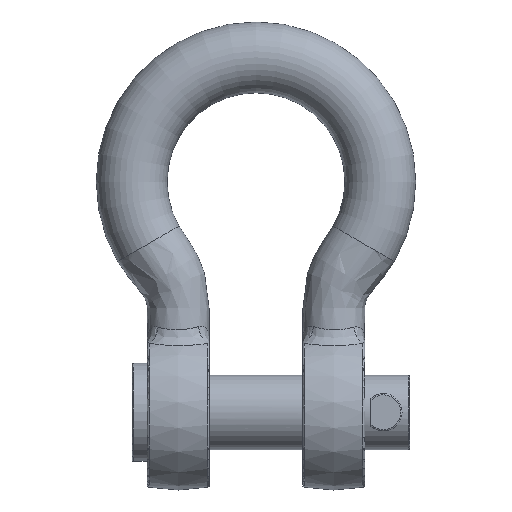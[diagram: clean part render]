
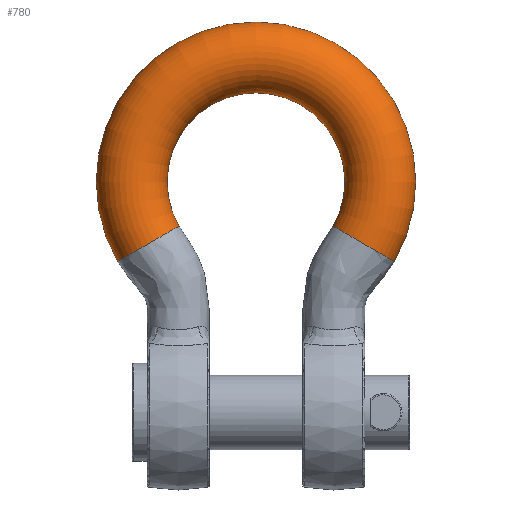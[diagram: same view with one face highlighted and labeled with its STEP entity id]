
A CAD part, top view. The second image highlights one B-rep face of the part: STEP entity #780.
In plain terms, the highlighted toroidal (fillet/blend) face has major radius 100 mm and minor radius 28.5 mm.
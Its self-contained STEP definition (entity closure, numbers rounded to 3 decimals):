
#68=TOROIDAL_SURFACE('',#924,100.,28.5);
#144=FACE_OUTER_BOUND('',#192,.T.);
#192=EDGE_LOOP('',(#648,#649,#650,#651,#652,#653));
#280=CIRCLE('',#925,28.5);
#281=CIRCLE('',#926,28.5);
#282=CIRCLE('',#927,71.5);
#283=CIRCLE('',#928,28.5);
#284=CIRCLE('',#929,28.5);
#358=VERTEX_POINT('',#3047);
#359=VERTEX_POINT('',#3048);
#360=VERTEX_POINT('',#3051);
#361=VERTEX_POINT('',#3053);
#462=EDGE_CURVE('',#358,#359,#280,.T.);
#463=EDGE_CURVE('',#359,#358,#281,.T.);
#464=EDGE_CURVE('',#359,#360,#282,.T.);
#465=EDGE_CURVE('',#360,#361,#283,.T.);
#466=EDGE_CURVE('',#361,#360,#284,.T.);
#648=ORIENTED_EDGE('',*,*,#462,.F.);
#649=ORIENTED_EDGE('',*,*,#463,.F.);
#650=ORIENTED_EDGE('',*,*,#464,.T.);
#651=ORIENTED_EDGE('',*,*,#465,.T.);
#652=ORIENTED_EDGE('',*,*,#466,.T.);
#653=ORIENTED_EDGE('',*,*,#464,.F.);
#780=ADVANCED_FACE('',(#144),#68,.T.);
#924=AXIS2_PLACEMENT_3D('',#3046,#1085,#1086);
#925=AXIS2_PLACEMENT_3D('',#3049,#1087,#1088);
#926=AXIS2_PLACEMENT_3D('',#3050,#1089,#1090);
#927=AXIS2_PLACEMENT_3D('',#3052,#1091,#1092);
#928=AXIS2_PLACEMENT_3D('',#3054,#1093,#1094);
#929=AXIS2_PLACEMENT_3D('',#3055,#1095,#1096);
#1085=DIRECTION('center_axis',(0.,0.,1.));
#1086=DIRECTION('ref_axis',(0.,1.,0.));
#1087=DIRECTION('center_axis',(0.5,-0.866,0.));
#1088=DIRECTION('ref_axis',(-0.866,-0.5,0.));
#1089=DIRECTION('center_axis',(0.5,-0.866,0.));
#1090=DIRECTION('ref_axis',(-0.866,-0.5,0.));
#1091=DIRECTION('center_axis',(0.,0.,-1.));
#1092=DIRECTION('ref_axis',(0.,1.,0.));
#1093=DIRECTION('center_axis',(0.5,0.866,0.));
#1094=DIRECTION('ref_axis',(0.866,-0.5,0.));
#1095=DIRECTION('center_axis',(0.5,0.866,0.));
#1096=DIRECTION('ref_axis',(0.866,-0.5,0.));
#3046=CARTESIAN_POINT('Origin',(0.,185.5,0.));
#3047=CARTESIAN_POINT('',(-111.284,121.25,0.));
#3048=CARTESIAN_POINT('',(-61.921,149.75,0.));
#3049=CARTESIAN_POINT('Origin',(-86.603,135.5,0.));
#3050=CARTESIAN_POINT('Origin',(-86.603,135.5,0.));
#3051=CARTESIAN_POINT('',(61.921,149.75,0.));
#3052=CARTESIAN_POINT('Origin',(0.,185.5,0.));
#3053=CARTESIAN_POINT('',(111.284,121.25,0.));
#3054=CARTESIAN_POINT('Origin',(86.603,135.5,0.));
#3055=CARTESIAN_POINT('Origin',(86.603,135.5,0.));
